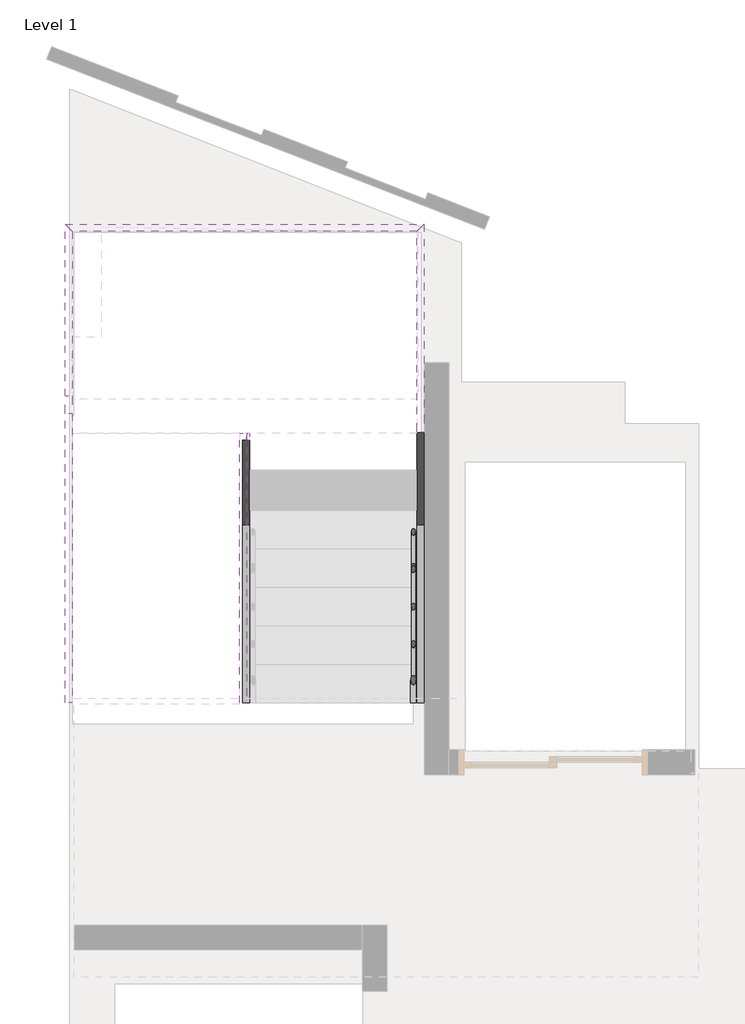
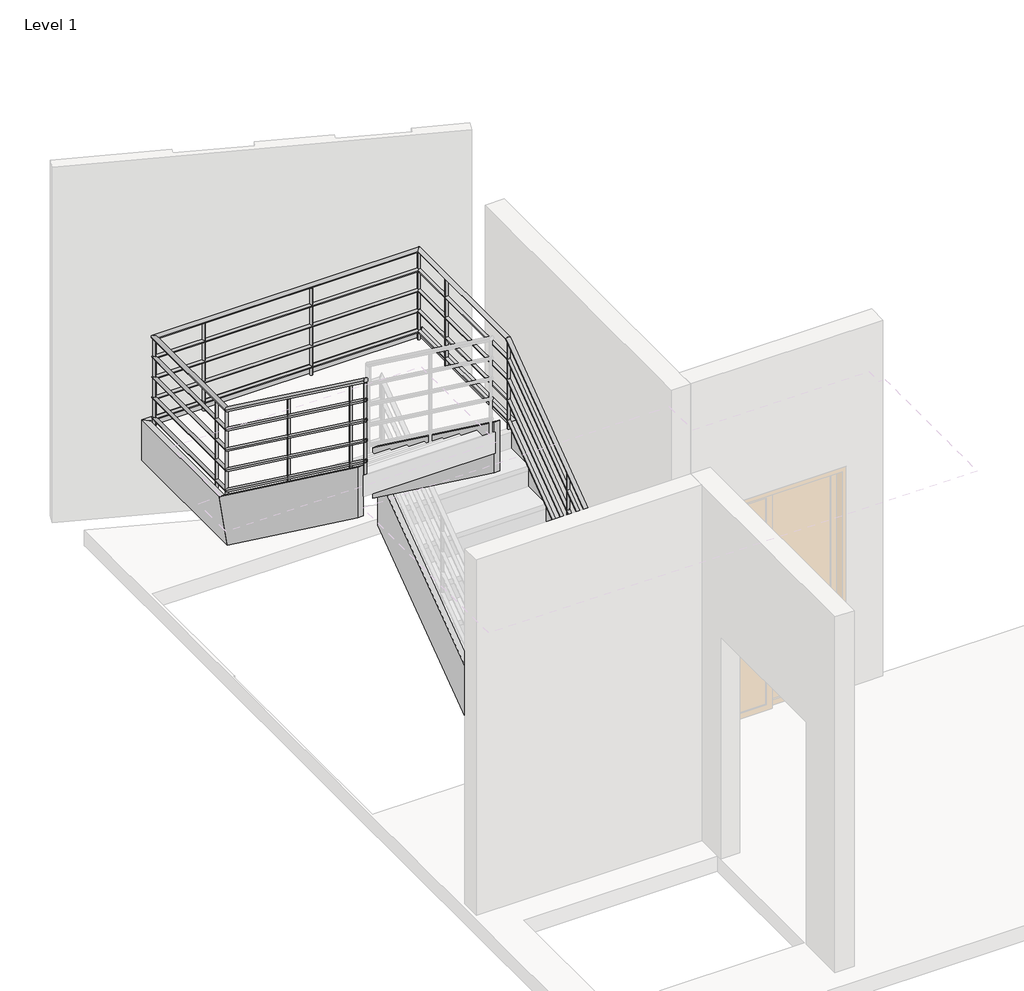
# One storey, part 4 of 4: 8 members, 1 railing.
"""IFC4 building model written with IfcOpenShell, lengths in millimetres."""

import ifcopenshell
import ifcopenshell.guid

model = None  # the IFC model being written
_history = None  # IfcOwnerHistory: only IFC2X3 demands one
_inside = {}  # id of a spatial element -> (the spatial element, [elements in it])
_under = {}  # id of a project, library or spatial element -> (it, [spatial elements below it])
_declared = {}  # id of a project -> (the project, [libraries it declares])
_typed = {}  # id of a type object -> (the type object, [elements of that type])
_made_of = {}  # id of a material, layer set ... -> (it, [elements and type objects made of it])


def new_model(schema):
    """Start an empty IFC model of exactly this schema.

    Asked for "IFC4X3", IfcOpenShell would pick the latest addendum, in which some entities
    have other attributes; the version numbers below select the first issue.
    IFC2X3 requires an IfcOwnerHistory on every rooted entity: one is made here for all.
    """
    global model, _history
    if schema == "IFC4X3":
        model = ifcopenshell.file(schema_version=(4, 3, 0, 0))
    else:
        model = ifcopenshell.file(schema=schema)
    _inside.clear()
    _under.clear()
    _declared.clear()
    _typed.clear()
    _made_of.clear()
    _history = None
    if model.schema == "IFC2X3":
        org = make("IfcOrganization", Name="unknown")
        user = make(
            "IfcPersonAndOrganization",
            ThePerson=make("IfcPerson", FamilyName="unknown"),
            TheOrganization=org,
        )
        app = make(
            "IfcApplication",
            ApplicationDeveloper=org,
            Version="unknown",
            ApplicationFullName="unknown",
            ApplicationIdentifier="unknown",
        )
        _history = make(
            "IfcOwnerHistory",
            OwningUser=user,
            OwningApplication=app,
            ChangeAction="ADDED",
            CreationDate=0,
        )
    return model


def make(cls, **values):
    """One entity of the class cls with the attributes given. An attribute that is None is left unset."""
    return model.create_entity(
        cls, **{name: value for name, value in values.items() if value is not None}
    )


def rooted(cls, **values):
    """An entity with a GlobalId (a new one), such as an element, a storey or a relation."""
    return make(cls, GlobalId=ifcopenshell.guid.new(), OwnerHistory=_history, **values)


def si_unit(unit_type, name, prefix=None):
    """IfcSIUnit, for example si_unit("LENGTHUNIT", "METRE", prefix="MILLI")."""
    return make("IfcSIUnit", UnitType=unit_type, Prefix=prefix, Name=name)


def assignment(units):
    """IfcUnitAssignment: the units of a project."""
    return None if units is None else make("IfcUnitAssignment", Units=units)


def point(xyz):
    """IfcCartesianPoint."""
    return None if xyz is None else make("IfcCartesianPoint", Coordinates=xyz)


def direction(xyz):
    """IfcDirection."""
    return None if xyz is None else make("IfcDirection", DirectionRatios=xyz)


def frame(location, z_axis=None, x_axis=None):
    """IfcAxis2Placement3D, a coordinate frame: its origin and axes. An axis left out is left unset."""
    return make(
        "IfcAxis2Placement3D",
        Location=point(location),
        Axis=direction(z_axis),
        RefDirection=direction(x_axis),
    )


def frame_2d(location, x_axis=None):
    """IfcAxis2Placement2D, a coordinate frame in the plane: its origin and x axis."""
    return make(
        "IfcAxis2Placement2D", Location=point(location), RefDirection=direction(x_axis)
    )


def origin():
    """The frame at (0, 0, 0) with its axes left unset."""
    return frame((0.0, 0.0, 0.0))


def place(relative_to, where):
    """IfcLocalPlacement: puts the frame where relative to a parent placement (None: the world)."""
    return make(
        "IfcLocalPlacement", PlacementRelTo=relative_to, RelativePlacement=where
    )


def context(
    kind, dimensions, precision=None, world=None, true_north=None, identifier=None
):
    """IfcGeometricRepresentationContext, for example the 3D "Model" context."""
    return make(
        "IfcGeometricRepresentationContext",
        ContextIdentifier=identifier,
        ContextType=kind,
        CoordinateSpaceDimension=dimensions,
        Precision=precision,
        WorldCoordinateSystem=world,
        TrueNorth=true_north,
    )


def project(units=None, contexts=None):
    """IfcProject with its units and contexts."""
    return rooted(
        "IfcProject",
        Name="project",
        RepresentationContexts=contexts,
        UnitsInContext=assignment(units),
    )


def spatial(cls, under=None, at=None, **own):
    """A site, building, storey or space (cls), placed at a placement, below another one or the project."""
    s = rooted(cls, ObjectPlacement=at, **own)
    if under is not None:
        _under.setdefault(under.id(), (under, []))[1].append(s)
    return s


def polyline(points):
    """IfcPolyline through the points."""
    return make("IfcPolyline", Points=[point(p) for p in points])


def circle_curve(where, radius):
    """IfcCircle in the frame where."""
    return make("IfcCircle", Position=where, Radius=radius)


def ellipse_curve(where, semi_axis1, semi_axis2):
    """IfcEllipse in the frame where."""
    return make(
        "IfcEllipse", Position=where, SemiAxis1=semi_axis1, SemiAxis2=semi_axis2
    )


def trimmed(basis, trim1, trim2, sense, master):
    """IfcTrimmedCurve: the piece of a basis curve between two trims."""
    return make(
        "IfcTrimmedCurve",
        BasisCurve=basis,
        Trim1=trim1,
        Trim2=trim2,
        SenseAgreement=sense,
        MasterRepresentation=master,
    )


def segment(curve, same_sense, transition):
    """IfcCompositeCurveSegment."""
    return make(
        "IfcCompositeCurveSegment",
        Transition=transition,
        SameSense=same_sense,
        ParentCurve=curve,
    )


def composite_curve(segments, self_intersect=None):
    """IfcCompositeCurve: segments joined end to end."""
    return make("IfcCompositeCurve", Segments=segments, SelfIntersect=self_intersect)


def outline(outer, holes=None, kind="AREA"):
    """IfcArbitraryClosedProfileDef: a profile drawn as a closed curve; with holes, ...WithVoids."""
    if holes is None:
        return make("IfcArbitraryClosedProfileDef", ProfileType=kind, OuterCurve=outer)
    return make(
        "IfcArbitraryProfileDefWithVoids",
        ProfileType=kind,
        OuterCurve=outer,
        InnerCurves=holes,
    )


def extrude(swept, where, along, depth):
    """IfcExtrudedAreaSolid: the profile swept, set in the frame where, extruded along a direction by depth."""
    return make(
        "IfcExtrudedAreaSolid",
        SweptArea=swept,
        Position=where,
        ExtrudedDirection=direction(along),
        Depth=depth,
    )


def faces_of(points, faces, orient=None, outer=None):
    """IfcFace entities. A face is a list of loops; a loop is a list of indices into points, from 0.

    orient and outer hold one flag for each loop. By default every Orientation is true, the
    first loop of a face is its IfcFaceOuterBound and the others are IfcFaceBound.
    """
    made = []
    for i, loops in enumerate(faces):
        bounds = []
        for j, loop in enumerate(loops):
            is_outer = j == 0 if outer is None else outer[i][j]
            bounds.append(
                make(
                    "IfcFaceOuterBound" if is_outer else "IfcFaceBound",
                    Bound=make("IfcPolyLoop", Polygon=[points[k] for k in loop]),
                    Orientation=True if orient is None else orient[i][j],
                )
            )
        made.append(make("IfcFace", Bounds=bounds))
    return made


def faceted_brep(points, faces, orient=None, outer=None, voids=None):
    """IfcFacetedBrep: a solid bounded by flat faces; with voids (closed shells), ...WithVoids."""
    shared = [point(p) for p in points]
    hull = make("IfcClosedShell", CfsFaces=faces_of(shared, faces, orient, outer))
    if voids is None:
        return make("IfcFacetedBrep", Outer=hull)
    return make(
        "IfcFacetedBrepWithVoids",
        Outer=hull,
        Voids=[
            make(cls, CfsFaces=faces_of(shared, fs, o, b)) for cls, fs, o, b in voids
        ],
    )


def shape(context_of_items, identifier, shape_type, items):
    """IfcShapeRepresentation: the items that make up one representation, for example the "Body"."""
    return make(
        "IfcShapeRepresentation",
        ContextOfItems=context_of_items,
        RepresentationIdentifier=identifier,
        RepresentationType=shape_type,
        Items=items,
    )


def made_of(thing, what):
    """Note that an element or type object is made of a material, layer set ...; save() writes the relation."""
    if what is not None:
        _made_of.setdefault(what.id(), (what, []))[1].append(thing)
    return thing


def element(
    cls,
    number,
    at=None,
    inside=None,
    cuts=None,
    type_object=None,
    material=None,
    context=None,
    identifier="Body",
    shape_type=None,
    held_by="IfcProductDefinitionShape",
    body=None,
    shapes=None,
    **own,
):
    """One element of the class cls, such as IfcWall. Its Tag is "e" and its number.

    at: its placement. inside: the storey or other place that contains it. cuts: it is an
    opening in that element (IfcRelVoidsElement). A single representation is given by context,
    identifier, shape_type and body (its items); several are given by shapes. held_by: the class
    of the entity that holds the representations. save() writes the other relations.
    """
    e = rooted(cls, Tag="e%d" % number, ObjectPlacement=at, **own)
    if body is not None:
        shapes = [shape(context, identifier, shape_type, body)]
    if shapes is not None:
        e.Representation = make(held_by, Representations=shapes)
    if inside is not None:
        _inside.setdefault(inside.id(), (inside, []))[1].append(e)
    if cuts is not None:
        rooted(
            "IfcRelVoidsElement", RelatingBuildingElement=cuts, RelatedOpeningElement=e
        )
    if type_object is not None:
        _typed.setdefault(type_object.id(), (type_object, []))[1].append(e)
    return made_of(e, material)


def aggregate(whole, parts):
    """IfcRelAggregates: a whole, such as a stair, and the parts it consists of."""
    return rooted("IfcRelAggregates", RelatingObject=whole, RelatedObjects=parts)


def save(model, path):
    """Write the relations noted so far, then the file.

    IfcRelAggregates (storeys below a building ...), IfcRelContainedInSpatialStructure (elements
    in a storey), IfcRelDefinesByType, IfcRelAssociatesMaterial and IfcRelDeclares: one each for
    every whole, place, type object, material and project.
    """
    for whole, parts in _under.values():
        aggregate(whole, parts)
    for where, things in _inside.values():
        rooted(
            "IfcRelContainedInSpatialStructure",
            RelatedElements=things,
            RelatingStructure=where,
        )
    for kind, things in _typed.values():
        rooted("IfcRelDefinesByType", RelatedObjects=things, RelatingType=kind)
    for what, things in _made_of.values():
        rooted("IfcRelAssociatesMaterial", RelatedObjects=things, RelatingMaterial=what)
    for by, libraries in _declared.values():
        rooted("IfcRelDeclares", RelatingContext=by, RelatedDefinitions=libraries)
    model.write(path)


def plane_surface(at):
    """IfcPlane: the flat surface through the origin of the frame at, square to its z axis."""
    return make("IfcPlane", Position=at)


def cylinder_surface(at, radius):
    """IfcCylindricalSurface: all points at the distance radius from the z axis of the frame at."""
    return make("IfcCylindricalSurface", Position=at, Radius=radius)


def advanced_brep(points, edges, surfaces, faces):
    """IfcAdvancedBrep: a solid bounded by faces that lie on surfaces and meet in shared edges.

    An edge is (start, end): straight between two places in points (the first is 0);
    or (start, end, curve); or (start, end, curve, False) where it runs against its curve.
    A face is (place in surfaces, loops), or (place, loops, False) where it looks against
    its surface's normal. A loop lists edges by number (the first is 1), with a minus sign
    where the edge is run from its end to its start. The first loop is the outer one.
    """
    corners = [point(p) for p in points]
    vertices = [make("IfcVertexPoint", VertexGeometry=c) for c in corners]
    made = []
    for start, end, *more in edges:
        made.append(
            make(
                "IfcEdgeCurve",
                EdgeStart=vertices[start],
                EdgeEnd=vertices[end],
                EdgeGeometry=more[0] if more else make("IfcPolyline", Points=[corners[start], corners[end]]),
                SameSense=more[1] if len(more) > 1 else True,
            )
        )
    hull = []
    for where, loops, *sense in faces:
        bounds = []
        for j, loop in enumerate(loops):
            ring = [make("IfcOrientedEdge", EdgeElement=made[abs(k) - 1], Orientation=k > 0) for k in loop]
            bounds.append(
                make(
                    "IfcFaceOuterBound" if j == 0 else "IfcFaceBound",
                    Bound=make("IfcEdgeLoop", EdgeList=ring),
                    Orientation=True,
                )
            )
        hull.append(make("IfcAdvancedFace", Bounds=bounds, FaceSurface=surfaces[where], SameSense=sense[0] if sense else True))
    return make("IfcAdvancedBrep", Outer=make("IfcClosedShell", CfsFaces=hull))


model = new_model("IFC4")

# Units and contexts
model_context = context("Model", 3, world=origin())
ifc_project = project(units=[si_unit("LENGTHUNIT", "METRE", prefix="MILLI")], contexts=[model_context])

# Site, building, storey
site = spatial("IfcSite", under=ifc_project)
building = spatial("IfcBuilding", under=site)
storey = spatial("IfcBuildingStorey", under=building, Name="Level 1", Elevation=4500.0)

# Members
placement = place(None, origin())
element("IfcMember", 1, ObjectType="Stringer - 50mm Width", at=placement, inside=storey, context=model_context, shape_type="SweptSolid", body=[
    extrude(outline(polyline([(10481.5722364, 4500.0), (10481.5722364, 4751.1168801), (12391.5722364, 6155.5286448), (12391.5722364, 5659.0357543), (10815.2836106, 4500.0), (10481.5722364, 4500.0)])), frame((1177.2607589, 0.0, 0.0), z_axis=(1.0, 0.0, 0.0), x_axis=(0.0, 1.0, 0.0)), (0.0, 0.0, 1.0), 50.0),
])
element("IfcMember", 2, ObjectType="Stringer - 50mm Width", at=placement, inside=storey, context=model_context, shape_type="SweptSolid", body=[
    extrude(outline(polyline([(10481.5722364, 4500.0), (10481.5722364, 4751.1168801), (12448.0532795, 6197.0588235), (12579.2836106, 5797.0588235), (10815.2836106, 4500.0), (10481.5722364, 4500.0)])), frame((2447.2607589, 0.0, 0.0), z_axis=(1.0, 0.0, 0.0), x_axis=(0.0, 1.0, 0.0)), (0.0, 0.0, 1.0), 50.0),
])
element("IfcMember", 3, ObjectType="Stringer - 50mm Width", at=placement, inside=storey, context=model_context, shape_type="SweptSolid", body=[
    extrude(outline(polyline([(12441.5722364, 6398.1757036), (12441.5722364, 5901.6828131), (10481.5722364, 7342.8592837), (10481.5722364, 7839.3521742), (12441.5722364, 6398.1757036)])), frame((1157.2607589, 0.0, 0.0), z_axis=(1.0, 0.0, 0.0), x_axis=(0.0, 1.0, 0.0)), (0.0, 0.0, 1.0), 50.0),
])
element("IfcMember", 4, ObjectType="Stringer - 50mm Width", at=placement, inside=storey, context=model_context, shape_type="SweptSolid", body=[
    extrude(outline(polyline([(12715.0911933, 6197.0588235), (12583.8608623, 5797.0588235), (10481.5722364, 7342.8592837), (10481.5722364, 7839.3521742), (12715.0911933, 6197.0588235)])), frame((-112.7392411, 0.0, 0.0), z_axis=(1.0, 0.0, 0.0), x_axis=(0.0, 1.0, 0.0)), (0.0, 0.0, 1.0), 50.0),
])
element("IfcMember", 5, ObjectType="Stringer - 50mm Width", at=placement, inside=storey, context=model_context, shape_type="SweptSolid", body=[
    extrude(outline(polyline([(1207.2607589, 12391.5722364), (1207.2607589, 12441.5722364), (1227.2607589, 12441.5722364), (1227.2607589, 12391.5722364), (1207.2607589, 12391.5722364)])), frame((0.0, 0.0, 5797.0588235), z_axis=(0.0, 0.0, 1.0), x_axis=(1.0, 0.0, 0.0)), (0.0, 0.0, 1.0), 400.0),
])
element("IfcMember", 6, ObjectType="Stringer - 50mm Width", at=placement, inside=storey, context=model_context, shape_type="Brep", body=[
    faceted_brep([(2447.2607589, 12448.0532795, 6197.0588235), (2497.2607589, 12448.0532795, 6197.0588235), (2497.2607589, 13961.9570443, 6197.0588235), (2447.2607589, 13911.9570443, 6197.0588235), (2447.2607589, 12579.2836106, 5797.0588235), (2447.2607589, 13911.9570443, 5797.0588235), (2497.2607589, 12579.2836106, 5797.0588235), (2497.2607589, 13961.9570443, 5797.0588235)], [[[0, 1, 2, 3]], [[4, 0, 3, 5]], [[6, 4, 5, 7]], [[1, 6, 7, 2]], [[1, 0, 4, 6]], [[2, 7, 5, 3]]]),
])
element("IfcMember", 7, ObjectType="Stringer - 50mm Width", at=placement, inside=storey, context=model_context, shape_type="SweptSolid", body=[
    extrude(outline(polyline([(2497.2607589, 13961.9570443), (2447.2607589, 13911.9570443), (-62.7392411, 13911.9570443), (-112.7392411, 13961.9570443), (2497.2607589, 13961.9570443)])), frame((0.0, 0.0, 5797.0588235), z_axis=(0.0, 0.0, 1.0), x_axis=(1.0, 0.0, 0.0)), (0.0, 0.0, 1.0), 400.0),
])
element("IfcMember", 8, ObjectType="Stringer - 50mm Width", at=placement, inside=storey, context=model_context, shape_type="Brep", body=[
    faceted_brep([(-62.7392411, 13911.9570443, 6197.0588235), (-112.7392411, 13961.9570443, 6197.0588235), (-112.7392411, 12715.0911933, 6197.0588235), (-62.7392411, 12715.0911933, 6197.0588235), (-62.7392411, 13911.9570443, 5797.0588235), (-62.7392411, 12583.8608623, 5797.0588235), (-112.7392411, 13961.9570443, 5797.0588235), (-112.7392411, 12583.8608623, 5797.0588235)], [[[0, 1, 2, 3]], [[4, 0, 3, 5]], [[6, 4, 5, 7]], [[1, 6, 7, 2]], [[1, 0, 4, 6]], [[2, 7, 5, 3]]]),
])

# Railing
element("IfcRailing", 9, ObjectType="900mm Pipe", at=placement, inside=storey, context=model_context, shape_type="SolidModel", body=[
    advanced_brep(
    [(2441.8607589, 10481.5722364, 5581.0577084), (2401.8607589, 10481.5722364, 5581.0577084), (2441.8607589, 12448.133753, 7027.0588235), (2401.8607589, 12448.133753, 7027.0588235), (2441.8607589, 13906.5570443, 7027.0588235), (2401.8607589, 13866.5570443, 7027.0588235), (-57.3392411, 13906.5570443, 7027.0588235), (-17.3392411, 13866.5570443, 7027.0588235), (-57.3392411, 12715.0107199, 7027.0588235), (-17.3392411, 12715.0107199, 7027.0588235), (-57.3392411, 10481.5722364, 8669.2930025), (-17.3392411, 10481.5722364, 8669.2930025)],
    [
        (0, 1, ellipse_curve(frame((2421.8607589, 10481.5722364, 5581.0577084), z_axis=(0.0, -1.0, 0.0), x_axis=(0.0, 0.0, -1.0)), 24.8246445, 20.0)),
        (1, 0, ellipse_curve(frame((2421.8607589, 10481.5722364, 5581.0577084), z_axis=(0.0, -1.0, 0.0), x_axis=(0.0, 0.0, -1.0)), 24.8246445, 20.0)),
        (0, 2),
        (2, 3, ellipse_curve(frame((2421.8607589, 12448.133753, 7027.0588235), z_axis=(0.0, -0.95017130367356, -0.3117282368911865), x_axis=(0.0, 0.311728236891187, -0.9501713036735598)), 21.0488361, 20.0)),
        (3, 1),
        (3, 2, ellipse_curve(frame((2421.8607589, 12448.133753, 7027.0588235), z_axis=(0.0, -0.95017130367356, -0.3117282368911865), x_axis=(0.0, 0.311728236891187, -0.9501713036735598)), 21.0488361, 20.0)),
        (2, 4),
        (4, 5, ellipse_curve(frame((2421.8607589, 13886.5570443, 7027.0588235), z_axis=(0.7071067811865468, -0.7071067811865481, 0.0), x_axis=(-0.707106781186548, -0.707106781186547, 0.0)), 28.2842712, 20.0)),
        (5, 3),
        (5, 4, ellipse_curve(frame((2421.8607589, 13886.5570443, 7027.0588235), z_axis=(0.7071067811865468, -0.7071067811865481, 0.0), x_axis=(-0.707106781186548, -0.707106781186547, 0.0)), 28.2842712, 20.0)),
        (4, 6),
        (6, 7, ellipse_curve(frame((-37.3392411, 13886.5570443, 7027.0588235), z_axis=(0.7071067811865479, 0.707106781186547, 0.0), x_axis=(0.7071067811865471, -0.7071067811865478, 0.0)), 28.2842712, 20.0)),
        (7, 5),
        (7, 6, ellipse_curve(frame((-37.3392411, 13886.5570443, 7027.0588235), z_axis=(0.7071067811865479, 0.707106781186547, 0.0), x_axis=(0.7071067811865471, -0.7071067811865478, 0.0)), 28.2842712, 20.0)),
        (6, 8),
        (8, 9, ellipse_curve(frame((-37.3392411, 12715.0107199, 7027.0588235), z_axis=(0.0, 0.95017130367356, -0.31172823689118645), x_axis=(0.0, 0.31172823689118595, 0.95017130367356)), 21.0488361, 20.0)),
        (9, 7),
        (9, 8, ellipse_curve(frame((-37.3392411, 12715.0107199, 7027.0588235), z_axis=(0.0, 0.95017130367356, -0.31172823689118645), x_axis=(0.0, 0.31172823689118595, 0.95017130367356)), 21.0488361, 20.0)),
        (10, 11, ellipse_curve(frame((-37.3392411, 10481.5722364, 8669.2930025), z_axis=(0.0, -1.0, 0.0), x_axis=(0.0, 0.0, -1.0)), 24.8246445, 20.0)),
        (11, 10, ellipse_curve(frame((-37.3392411, 10481.5722364, 8669.2930025), z_axis=(0.0, -1.0, 0.0), x_axis=(0.0, 0.0, -1.0)), 24.8246445, 20.0)),
        (8, 10),
        (11, 9),
    ],
    [
        plane_surface(frame((2421.8607589, 10481.5722364, 5605.8823529), z_axis=(0.0, -1.0, 0.0), x_axis=(0.0, 0.0, 1.0))),
        cylinder_surface(frame((2421.8607589, 10493.4200454, 5589.7693327), z_axis=(0.0, -0.8056510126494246, -0.592390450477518), x_axis=(-1.0, 0.0, 0.0)), 20.0),
        cylinder_surface(frame((2421.8607589, 12441.5722364, 7027.0588235), z_axis=(0.0, -1.0, 0.0), x_axis=(-1.0, 0.0, 0.0)), 20.0),
        cylinder_surface(frame((2421.8607589, 13886.5570443, 7027.0588235), z_axis=(1.0, 0.0, 0.0), x_axis=(0.0, -1.0, 0.0)), 20.0),
        cylinder_surface(frame((-37.3392411, 13886.5570443, 7027.0588235), z_axis=(0.0, 1.0, 0.0), x_axis=(1.0, 0.0, 0.0)), 20.0),
        plane_surface(frame((-37.3392411, 10481.5722364, 8694.1176471), z_axis=(0.0, -1.0, 0.0), x_axis=(0.0, 0.0, -1.0))),
        cylinder_surface(frame((-37.3392411, 12709.7244274, 7030.9458033), z_axis=(0.0, 0.8056510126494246, -0.5923904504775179), x_axis=(1.0, 0.0, 0.0)), 20.0),
    ],
    [
        (0, [[1, 2]]),
        (1, [[-1, 3, 4, 5]]),
        (1, [[-2, -5, 6, -3]]),
        (2, [[-4, 7, 8, 9]]),
        (2, [[-6, -9, 10, -7]]),
        (3, [[-8, 11, 12, 13]]),
        (3, [[-10, -13, 14, -11]]),
        (4, [[-12, 15, 16, 17]]),
        (4, [[-14, -17, 18, -15]]),
        (5, [[19, 20]]),
        (6, [[-16, 21, -20, 22]]),
        (6, [[-18, -22, -19, -21]]),
    ],
),
    advanced_brep(
    [(2406.8607589, 10481.5722364, 5387.2638695), (2436.8607589, 10481.5722364, 5387.2638695), (2406.8607589, 12446.4933738, 6832.0588235), (2436.8607589, 12446.4933738, 6832.0588235), (2406.8607589, 13871.5570443, 6832.0588235), (2436.8607589, 13901.5570443, 6832.0588235), (-22.3392411, 13871.5570443, 6832.0588235), (-52.3392411, 13901.5570443, 6832.0588235), (-22.3392411, 12716.651099, 6832.0588235), (-52.3392411, 12716.651099, 6832.0588235), (-22.3392411, 10481.5722364, 8475.4991637), (-52.3392411, 10481.5722364, 8475.4991637)],
    [
        (0, 1, ellipse_curve(frame((2421.8607589, 10481.5722364, 5387.2638695), z_axis=(0.0, -1.0, 0.0), x_axis=(0.0, 0.0, -1.0)), 18.6184834, 15.0)),
        (1, 0, ellipse_curve(frame((2421.8607589, 10481.5722364, 5387.2638695), z_axis=(0.0, -1.0, 0.0), x_axis=(0.0, 0.0, -1.0)), 18.6184834, 15.0)),
        (0, 2),
        (2, 3, ellipse_curve(frame((2421.8607589, 12446.4933738, 6832.0588235), z_axis=(0.0, -0.95017130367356, -0.3117282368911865), x_axis=(0.0, 0.311728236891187, -0.9501713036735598)), 15.786627, 15.0)),
        (3, 1),
        (3, 2, ellipse_curve(frame((2421.8607589, 12446.4933738, 6832.0588235), z_axis=(0.0, -0.95017130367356, -0.3117282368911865), x_axis=(0.0, 0.311728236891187, -0.9501713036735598)), 15.786627, 15.0)),
        (2, 4),
        (4, 5, ellipse_curve(frame((2421.8607589, 13886.5570443, 6832.0588235), z_axis=(0.7071067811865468, -0.7071067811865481, 0.0), x_axis=(-0.707106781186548, -0.707106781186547, 0.0)), 21.2132034, 15.0)),
        (5, 3),
        (5, 4, ellipse_curve(frame((2421.8607589, 13886.5570443, 6832.0588235), z_axis=(0.7071067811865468, -0.7071067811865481, 0.0), x_axis=(-0.707106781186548, -0.707106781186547, 0.0)), 21.2132034, 15.0)),
        (4, 6),
        (6, 7, ellipse_curve(frame((-37.3392411, 13886.5570443, 6832.0588235), z_axis=(0.7071067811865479, 0.707106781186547, 0.0), x_axis=(0.7071067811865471, -0.7071067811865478, 0.0)), 21.2132034, 15.0)),
        (7, 5),
        (7, 6, ellipse_curve(frame((-37.3392411, 13886.5570443, 6832.0588235), z_axis=(0.7071067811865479, 0.707106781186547, 0.0), x_axis=(0.7071067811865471, -0.7071067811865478, 0.0)), 21.2132034, 15.0)),
        (6, 8),
        (8, 9, ellipse_curve(frame((-37.3392411, 12716.651099, 6832.0588235), z_axis=(0.0, 0.95017130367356, -0.31172823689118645), x_axis=(0.0, 0.31172823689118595, 0.95017130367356)), 15.786627, 15.0)),
        (9, 7),
        (9, 8, ellipse_curve(frame((-37.3392411, 12716.651099, 6832.0588235), z_axis=(0.0, 0.95017130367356, -0.31172823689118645), x_axis=(0.0, 0.31172823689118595, 0.95017130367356)), 15.786627, 15.0)),
        (10, 11, ellipse_curve(frame((-37.3392411, 10481.5722364, 8475.4991637), z_axis=(0.0, -1.0, 0.0), x_axis=(0.0, 0.0, -1.0)), 18.6184834, 15.0)),
        (11, 10, ellipse_curve(frame((-37.3392411, 10481.5722364, 8475.4991637), z_axis=(0.0, -1.0, 0.0), x_axis=(0.0, 0.0, -1.0)), 18.6184834, 15.0)),
        (8, 10),
        (11, 9),
    ],
    [
        plane_surface(frame((2421.8607589, 10481.5722364, 5405.8823529), z_axis=(0.0, -1.0, 0.0), x_axis=(0.0, 0.0, 1.0))),
        cylinder_surface(frame((2421.8607589, 10490.4580932, 5393.7975878), z_axis=(0.0, -0.8056510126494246, -0.592390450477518), x_axis=(1.0, 0.0, 0.0)), 15.0),
        cylinder_surface(frame((2421.8607589, 12441.5722364, 6832.0588235), z_axis=(0.0, -1.0, 0.0), x_axis=(1.0, 0.0, 0.0)), 15.0),
        cylinder_surface(frame((2421.8607589, 13886.5570443, 6832.0588235), z_axis=(1.0, 0.0, 0.0), x_axis=(0.0, 1.0, 0.0)), 15.0),
        cylinder_surface(frame((-37.3392411, 13886.5570443, 6832.0588235), z_axis=(0.0, 1.0, 0.0), x_axis=(-1.0, 0.0, 0.0)), 15.0),
        plane_surface(frame((-37.3392411, 10481.5722364, 8494.1176471), z_axis=(0.0, -1.0, 0.0), x_axis=(0.0, 0.0, -1.0))),
        cylinder_surface(frame((-37.3392411, 12712.6863797, 6834.9740583), z_axis=(0.0, 0.8056510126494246, -0.5923904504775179), x_axis=(-1.0, 0.0, 0.0)), 15.0),
    ],
    [
        (0, [[1, 2]]),
        (1, [[-1, 3, 4, 5]]),
        (1, [[-2, -5, 6, -3]]),
        (2, [[-4, 7, 8, 9]]),
        (2, [[-6, -9, 10, -7]]),
        (3, [[-8, 11, 12, 13]]),
        (3, [[-10, -13, 14, -11]]),
        (4, [[-12, 15, 16, 17]]),
        (4, [[-14, -17, 18, -15]]),
        (5, [[19, 20]]),
        (6, [[-16, 21, -20, 22]]),
        (6, [[-18, -22, -19, -21]]),
    ],
),
    advanced_brep(
    [(2406.8607589, 10481.5722364, 5187.2638695), (2436.8607589, 10481.5722364, 5187.2638695), (2406.8607589, 12446.4933738, 6632.0588235), (2436.8607589, 12446.4933738, 6632.0588235), (2406.8607589, 13871.5570443, 6632.0588235), (2436.8607589, 13901.5570443, 6632.0588235), (-22.3392411, 13871.5570443, 6632.0588235), (-52.3392411, 13901.5570443, 6632.0588235), (-22.3392411, 12716.651099, 6632.0588235), (-52.3392411, 12716.651099, 6632.0588235), (-22.3392411, 10481.5722364, 8275.4991637), (-52.3392411, 10481.5722364, 8275.4991637)],
    [
        (0, 1, ellipse_curve(frame((2421.8607589, 10481.5722364, 5187.2638695), z_axis=(0.0, -1.0, 0.0), x_axis=(0.0, 0.0, -1.0)), 18.6184834, 15.0)),
        (1, 0, ellipse_curve(frame((2421.8607589, 10481.5722364, 5187.2638695), z_axis=(0.0, -1.0, 0.0), x_axis=(0.0, 0.0, -1.0)), 18.6184834, 15.0)),
        (0, 2),
        (2, 3, ellipse_curve(frame((2421.8607589, 12446.4933738, 6632.0588235), z_axis=(0.0, -0.95017130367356, -0.3117282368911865), x_axis=(0.0, 0.311728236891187, -0.9501713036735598)), 15.786627, 15.0)),
        (3, 1),
        (3, 2, ellipse_curve(frame((2421.8607589, 12446.4933738, 6632.0588235), z_axis=(0.0, -0.95017130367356, -0.3117282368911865), x_axis=(0.0, 0.311728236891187, -0.9501713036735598)), 15.786627, 15.0)),
        (2, 4),
        (4, 5, ellipse_curve(frame((2421.8607589, 13886.5570443, 6632.0588235), z_axis=(0.7071067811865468, -0.7071067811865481, 0.0), x_axis=(-0.707106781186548, -0.707106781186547, 0.0)), 21.2132034, 15.0)),
        (5, 3),
        (5, 4, ellipse_curve(frame((2421.8607589, 13886.5570443, 6632.0588235), z_axis=(0.7071067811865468, -0.7071067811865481, 0.0), x_axis=(-0.707106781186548, -0.707106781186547, 0.0)), 21.2132034, 15.0)),
        (4, 6),
        (6, 7, ellipse_curve(frame((-37.3392411, 13886.5570443, 6632.0588235), z_axis=(0.7071067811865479, 0.707106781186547, 0.0), x_axis=(0.7071067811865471, -0.7071067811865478, 0.0)), 21.2132034, 15.0)),
        (7, 5),
        (7, 6, ellipse_curve(frame((-37.3392411, 13886.5570443, 6632.0588235), z_axis=(0.7071067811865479, 0.707106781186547, 0.0), x_axis=(0.7071067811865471, -0.7071067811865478, 0.0)), 21.2132034, 15.0)),
        (6, 8),
        (8, 9, ellipse_curve(frame((-37.3392411, 12716.651099, 6632.0588235), z_axis=(0.0, 0.95017130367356, -0.31172823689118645), x_axis=(0.0, 0.31172823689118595, 0.95017130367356)), 15.786627, 15.0)),
        (9, 7),
        (9, 8, ellipse_curve(frame((-37.3392411, 12716.651099, 6632.0588235), z_axis=(0.0, 0.95017130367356, -0.31172823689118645), x_axis=(0.0, 0.31172823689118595, 0.95017130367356)), 15.786627, 15.0)),
        (10, 11, ellipse_curve(frame((-37.3392411, 10481.5722364, 8275.4991637), z_axis=(0.0, -1.0, 0.0), x_axis=(0.0, 0.0, -1.0)), 18.6184834, 15.0)),
        (11, 10, ellipse_curve(frame((-37.3392411, 10481.5722364, 8275.4991637), z_axis=(0.0, -1.0, 0.0), x_axis=(0.0, 0.0, -1.0)), 18.6184834, 15.0)),
        (8, 10),
        (11, 9),
    ],
    [
        plane_surface(frame((2421.8607589, 10481.5722364, 5205.8823529), z_axis=(0.0, -1.0, 0.0), x_axis=(0.0, 0.0, 1.0))),
        cylinder_surface(frame((2421.8607589, 10490.4580932, 5193.7975878), z_axis=(0.0, -0.8056510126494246, -0.592390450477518), x_axis=(1.0, 0.0, 0.0)), 15.0),
        cylinder_surface(frame((2421.8607589, 12441.5722364, 6632.0588235), z_axis=(0.0, -1.0, 0.0), x_axis=(1.0, 0.0, 0.0)), 15.0),
        cylinder_surface(frame((2421.8607589, 13886.5570443, 6632.0588235), z_axis=(1.0, 0.0, 0.0), x_axis=(0.0, 1.0, 0.0)), 15.0),
        cylinder_surface(frame((-37.3392411, 13886.5570443, 6632.0588235), z_axis=(0.0, 1.0, 0.0), x_axis=(-1.0, 0.0, 0.0)), 15.0),
        plane_surface(frame((-37.3392411, 10481.5722364, 8294.1176471), z_axis=(0.0, -1.0, 0.0), x_axis=(0.0, 0.0, -1.0))),
        cylinder_surface(frame((-37.3392411, 12712.6863797, 6634.9740583), z_axis=(0.0, 0.8056510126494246, -0.5923904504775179), x_axis=(-1.0, 0.0, 0.0)), 15.0),
    ],
    [
        (0, [[1, 2]]),
        (1, [[-1, 3, 4, 5]]),
        (1, [[-2, -5, 6, -3]]),
        (2, [[-4, 7, 8, 9]]),
        (2, [[-6, -9, 10, -7]]),
        (3, [[-8, 11, 12, 13]]),
        (3, [[-10, -13, 14, -11]]),
        (4, [[-12, 15, 16, 17]]),
        (4, [[-14, -17, 18, -15]]),
        (5, [[19, 20]]),
        (6, [[-16, 21, -20, 22]]),
        (6, [[-18, -22, -19, -21]]),
    ],
),
    advanced_brep(
    [(2406.8607589, 10481.5722364, 4987.2638695), (2436.8607589, 10481.5722364, 4987.2638695), (2406.8607589, 12446.4933738, 6432.0588235), (2436.8607589, 12446.4933738, 6432.0588235), (2406.8607589, 13871.5570443, 6432.0588235), (2436.8607589, 13901.5570443, 6432.0588235), (-22.3392411, 13871.5570443, 6432.0588235), (-52.3392411, 13901.5570443, 6432.0588235), (-22.3392411, 12716.651099, 6432.0588235), (-52.3392411, 12716.651099, 6432.0588235), (-22.3392411, 10481.5722364, 8075.4991637), (-52.3392411, 10481.5722364, 8075.4991637)],
    [
        (0, 1, ellipse_curve(frame((2421.8607589, 10481.5722364, 4987.2638695), z_axis=(0.0, -1.0, 0.0), x_axis=(0.0, 0.0, -1.0)), 18.6184834, 15.0)),
        (1, 0, ellipse_curve(frame((2421.8607589, 10481.5722364, 4987.2638695), z_axis=(0.0, -1.0, 0.0), x_axis=(0.0, 0.0, -1.0)), 18.6184834, 15.0)),
        (0, 2),
        (2, 3, ellipse_curve(frame((2421.8607589, 12446.4933738, 6432.0588235), z_axis=(0.0, -0.95017130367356, -0.3117282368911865), x_axis=(0.0, 0.311728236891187, -0.9501713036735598)), 15.786627, 15.0)),
        (3, 1),
        (3, 2, ellipse_curve(frame((2421.8607589, 12446.4933738, 6432.0588235), z_axis=(0.0, -0.95017130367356, -0.3117282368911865), x_axis=(0.0, 0.311728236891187, -0.9501713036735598)), 15.786627, 15.0)),
        (2, 4),
        (4, 5, ellipse_curve(frame((2421.8607589, 13886.5570443, 6432.0588235), z_axis=(0.7071067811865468, -0.7071067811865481, 0.0), x_axis=(-0.707106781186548, -0.707106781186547, 0.0)), 21.2132034, 15.0)),
        (5, 3),
        (5, 4, ellipse_curve(frame((2421.8607589, 13886.5570443, 6432.0588235), z_axis=(0.7071067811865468, -0.7071067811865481, 0.0), x_axis=(-0.707106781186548, -0.707106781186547, 0.0)), 21.2132034, 15.0)),
        (4, 6),
        (6, 7, ellipse_curve(frame((-37.3392411, 13886.5570443, 6432.0588235), z_axis=(0.7071067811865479, 0.707106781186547, 0.0), x_axis=(0.7071067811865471, -0.7071067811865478, 0.0)), 21.2132034, 15.0)),
        (7, 5),
        (7, 6, ellipse_curve(frame((-37.3392411, 13886.5570443, 6432.0588235), z_axis=(0.7071067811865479, 0.707106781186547, 0.0), x_axis=(0.7071067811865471, -0.7071067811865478, 0.0)), 21.2132034, 15.0)),
        (6, 8),
        (8, 9, ellipse_curve(frame((-37.3392411, 12716.651099, 6432.0588235), z_axis=(0.0, 0.95017130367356, -0.31172823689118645), x_axis=(0.0, 0.31172823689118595, 0.95017130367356)), 15.786627, 15.0)),
        (9, 7),
        (9, 8, ellipse_curve(frame((-37.3392411, 12716.651099, 6432.0588235), z_axis=(0.0, 0.95017130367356, -0.31172823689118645), x_axis=(0.0, 0.31172823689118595, 0.95017130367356)), 15.786627, 15.0)),
        (10, 11, ellipse_curve(frame((-37.3392411, 10481.5722364, 8075.4991637), z_axis=(0.0, -1.0, 0.0), x_axis=(0.0, 0.0, -1.0)), 18.6184834, 15.0)),
        (11, 10, ellipse_curve(frame((-37.3392411, 10481.5722364, 8075.4991637), z_axis=(0.0, -1.0, 0.0), x_axis=(0.0, 0.0, -1.0)), 18.6184834, 15.0)),
        (8, 10),
        (11, 9),
    ],
    [
        plane_surface(frame((2421.8607589, 10481.5722364, 5005.8823529), z_axis=(0.0, -1.0, 0.0), x_axis=(0.0, 0.0, 1.0))),
        cylinder_surface(frame((2421.8607589, 10490.4580932, 4993.7975878), z_axis=(0.0, -0.8056510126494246, -0.592390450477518), x_axis=(1.0, 0.0, 0.0)), 15.0),
        cylinder_surface(frame((2421.8607589, 12441.5722364, 6432.0588235), z_axis=(0.0, -1.0, 0.0), x_axis=(1.0, 0.0, 0.0)), 15.0),
        cylinder_surface(frame((2421.8607589, 13886.5570443, 6432.0588235), z_axis=(1.0, 0.0, 0.0), x_axis=(0.0, 1.0, 0.0)), 15.0),
        cylinder_surface(frame((-37.3392411, 13886.5570443, 6432.0588235), z_axis=(0.0, 1.0, 0.0), x_axis=(-1.0, 0.0, 0.0)), 15.0),
        plane_surface(frame((-37.3392411, 10481.5722364, 8094.1176471), z_axis=(0.0, -1.0, 0.0), x_axis=(0.0, 0.0, -1.0))),
        cylinder_surface(frame((-37.3392411, 12712.6863797, 6434.9740583), z_axis=(0.0, 0.8056510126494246, -0.5923904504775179), x_axis=(-1.0, 0.0, 0.0)), 15.0),
    ],
    [
        (0, [[1, 2]]),
        (1, [[-1, 3, 4, 5]]),
        (1, [[-2, -5, 6, -3]]),
        (2, [[-4, 7, 8, 9]]),
        (2, [[-6, -9, 10, -7]]),
        (3, [[-8, 11, 12, 13]]),
        (3, [[-10, -13, 14, -11]]),
        (4, [[-12, 15, 16, 17]]),
        (4, [[-14, -17, 18, -15]]),
        (5, [[19, 20]]),
        (6, [[-16, 21, -20, 22]]),
        (6, [[-18, -22, -19, -21]]),
    ],
),
    advanced_brep(
    [(2406.8607589, 10481.5722364, 4787.2638695), (2436.8607589, 10481.5722364, 4787.2638695), (2406.8607589, 12446.4933738, 6232.0588235), (2436.8607589, 12446.4933738, 6232.0588235), (2406.8607589, 13871.5570443, 6232.0588235), (2436.8607589, 13901.5570443, 6232.0588235), (-22.3392411, 13871.5570443, 6232.0588235), (-52.3392411, 13901.5570443, 6232.0588235), (-22.3392411, 12716.651099, 6232.0588235), (-52.3392411, 12716.651099, 6232.0588235), (-22.3392411, 10481.5722364, 7875.4991637), (-52.3392411, 10481.5722364, 7875.4991637)],
    [
        (0, 1, ellipse_curve(frame((2421.8607589, 10481.5722364, 4787.2638695), z_axis=(0.0, -1.0, 0.0), x_axis=(0.0, 0.0, -1.0)), 18.6184834, 15.0)),
        (1, 0, ellipse_curve(frame((2421.8607589, 10481.5722364, 4787.2638695), z_axis=(0.0, -1.0, 0.0), x_axis=(0.0, 0.0, -1.0)), 18.6184834, 15.0)),
        (0, 2),
        (2, 3, ellipse_curve(frame((2421.8607589, 12446.4933738, 6232.0588235), z_axis=(0.0, -0.95017130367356, -0.3117282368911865), x_axis=(0.0, 0.311728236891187, -0.9501713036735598)), 15.786627, 15.0)),
        (3, 1),
        (3, 2, ellipse_curve(frame((2421.8607589, 12446.4933738, 6232.0588235), z_axis=(0.0, -0.95017130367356, -0.3117282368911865), x_axis=(0.0, 0.311728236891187, -0.9501713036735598)), 15.786627, 15.0)),
        (2, 4),
        (4, 5, ellipse_curve(frame((2421.8607589, 13886.5570443, 6232.0588235), z_axis=(0.7071067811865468, -0.7071067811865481, 0.0), x_axis=(-0.707106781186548, -0.707106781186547, 0.0)), 21.2132034, 15.0)),
        (5, 3),
        (5, 4, ellipse_curve(frame((2421.8607589, 13886.5570443, 6232.0588235), z_axis=(0.7071067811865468, -0.7071067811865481, 0.0), x_axis=(-0.707106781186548, -0.707106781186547, 0.0)), 21.2132034, 15.0)),
        (4, 6),
        (6, 7, ellipse_curve(frame((-37.3392411, 13886.5570443, 6232.0588235), z_axis=(0.7071067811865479, 0.707106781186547, 0.0), x_axis=(0.7071067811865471, -0.7071067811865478, 0.0)), 21.2132034, 15.0)),
        (7, 5),
        (7, 6, ellipse_curve(frame((-37.3392411, 13886.5570443, 6232.0588235), z_axis=(0.7071067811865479, 0.707106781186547, 0.0), x_axis=(0.7071067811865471, -0.7071067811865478, 0.0)), 21.2132034, 15.0)),
        (6, 8),
        (8, 9, ellipse_curve(frame((-37.3392411, 12716.651099, 6232.0588235), z_axis=(0.0, 0.95017130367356, -0.31172823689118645), x_axis=(0.0, 0.31172823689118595, 0.95017130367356)), 15.786627, 15.0)),
        (9, 7),
        (9, 8, ellipse_curve(frame((-37.3392411, 12716.651099, 6232.0588235), z_axis=(0.0, 0.95017130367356, -0.31172823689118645), x_axis=(0.0, 0.31172823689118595, 0.95017130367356)), 15.786627, 15.0)),
        (10, 11, ellipse_curve(frame((-37.3392411, 10481.5722364, 7875.4991637), z_axis=(0.0, -1.0, 0.0), x_axis=(0.0, 0.0, -1.0)), 18.6184834, 15.0)),
        (11, 10, ellipse_curve(frame((-37.3392411, 10481.5722364, 7875.4991637), z_axis=(0.0, -1.0, 0.0), x_axis=(0.0, 0.0, -1.0)), 18.6184834, 15.0)),
        (8, 10),
        (11, 9),
    ],
    [
        plane_surface(frame((2421.8607589, 10481.5722364, 4805.8823529), z_axis=(0.0, -1.0, 0.0), x_axis=(0.0, 0.0, 1.0))),
        cylinder_surface(frame((2421.8607589, 10490.4580932, 4793.7975878), z_axis=(0.0, -0.8056510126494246, -0.592390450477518), x_axis=(1.0, 0.0, 0.0)), 15.0),
        cylinder_surface(frame((2421.8607589, 12441.5722364, 6232.0588235), z_axis=(0.0, -1.0, 0.0), x_axis=(1.0, 0.0, 0.0)), 15.0),
        cylinder_surface(frame((2421.8607589, 13886.5570443, 6232.0588235), z_axis=(1.0, 0.0, 0.0), x_axis=(0.0, 1.0, 0.0)), 15.0),
        cylinder_surface(frame((-37.3392411, 13886.5570443, 6232.0588235), z_axis=(0.0, 1.0, 0.0), x_axis=(-1.0, 0.0, 0.0)), 15.0),
        plane_surface(frame((-37.3392411, 10481.5722364, 7894.1176471), z_axis=(0.0, -1.0, 0.0), x_axis=(0.0, 0.0, -1.0))),
        cylinder_surface(frame((-37.3392411, 12712.6863797, 6234.9740583), z_axis=(0.0, 0.8056510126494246, -0.5923904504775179), x_axis=(-1.0, 0.0, 0.0)), 15.0),
    ],
    [
        (0, [[1, 2]]),
        (1, [[-1, 3, 4, 5]]),
        (1, [[-2, -5, 6, -3]]),
        (2, [[-4, 7, 8, 9]]),
        (2, [[-6, -9, 10, -7]]),
        (3, [[-8, 11, 12, 13]]),
        (3, [[-10, -13, 14, -11]]),
        (4, [[-12, 15, 16, 17]]),
        (4, [[-14, -17, 18, -15]]),
        (5, [[19, 20]]),
        (6, [[-16, 21, -20, 22]]),
        (6, [[-18, -22, -19, -21]]),
    ],
),
    advanced_brep(
    [(-49.8392411, 10721.5722364, 8467.9977698), (-49.8392411, 10721.5722364, 7588.2352941), (-24.8392411, 10721.5722364, 7588.2352941), (-24.8392411, 10721.5722364, 8467.9977698)],
    [
        (0, 1),
        (1, 2, circle_curve(frame((-37.3392411, 10721.5722364, 7588.2352941), z_axis=(0.0, 0.0, 1.0), x_axis=(1.0, 0.0, 0.0)), 12.5)),
        (2, 3),
        (3, 0, ellipse_curve(frame((-37.3392411, 10721.5722364, 8467.9977698), z_axis=(0.0, -0.5923904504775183, -0.8056510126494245), x_axis=(0.0, -0.8056510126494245, 0.592390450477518)), 15.5154028, 12.5)),
        (0, 3, ellipse_curve(frame((-37.3392411, 10721.5722364, 8467.9977698), z_axis=(0.0, -0.5923904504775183, -0.8056510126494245), x_axis=(0.0, -0.8056510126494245, 0.592390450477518)), 15.5154028, 12.5)),
        (2, 1, circle_curve(frame((-37.3392411, 10721.5722364, 7588.2352941), z_axis=(0.0, 0.0, 1.0), x_axis=(1.0, 0.0, 0.0)), 12.5)),
    ],
    [
        cylinder_surface(frame((-37.3392411, 10721.5722364, 7488.2352941), z_axis=(0.0, 0.0, 1.0), x_axis=(1.0, 0.0, 0.0)), 12.5),
        plane_surface(frame((-12.3392411, 10696.5722364, 8486.3801227), z_axis=(0.0, 0.5923904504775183, 0.8056510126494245), x_axis=(-1.0, 0.0, 0.0))),
        plane_surface(frame((-12.3392411, 10746.5722364, 7588.2352941), z_axis=(0.0, 0.0, -1.0), x_axis=(-1.0, 0.0, 0.0))),
    ],
    [
        (0, [[1, 2, 3, 4]]),
        (0, [[-1, 5, -3, 6]]),
        (1, [[-4, -5]]),
        (2, [[-2, -6]]),
    ],
),
    advanced_brep(
    [(-49.8392411, 11721.5722364, 7732.7036521), (-49.8392411, 11721.5722364, 6764.7058824), (-24.8392411, 11721.5722364, 6764.7058824), (-24.8392411, 11721.5722364, 7732.7036521)],
    [
        (0, 1),
        (1, 2, circle_curve(frame((-37.3392411, 11721.5722364, 6764.7058824), z_axis=(0.0, 0.0, 1.0), x_axis=(1.0, 0.0, 0.0)), 12.5)),
        (2, 3),
        (3, 0, ellipse_curve(frame((-37.3392411, 11721.5722364, 7732.7036521), z_axis=(0.0, -0.5923904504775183, -0.8056510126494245), x_axis=(0.0, -0.8056510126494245, 0.592390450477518)), 15.5154028, 12.5)),
        (0, 3, ellipse_curve(frame((-37.3392411, 11721.5722364, 7732.7036521), z_axis=(0.0, -0.5923904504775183, -0.8056510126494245), x_axis=(0.0, -0.8056510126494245, 0.592390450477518)), 15.5154028, 12.5)),
        (2, 1, circle_curve(frame((-37.3392411, 11721.5722364, 6764.7058824), z_axis=(0.0, 0.0, 1.0), x_axis=(1.0, 0.0, 0.0)), 12.5)),
    ],
    [
        cylinder_surface(frame((-37.3392411, 11721.5722364, 6664.7058824), z_axis=(0.0, 0.0, 1.0), x_axis=(1.0, 0.0, 0.0)), 12.5),
        plane_surface(frame((-12.3392411, 11696.5722364, 7751.0860051), z_axis=(0.0, 0.5923904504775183, 0.8056510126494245), x_axis=(-1.0, 0.0, 0.0))),
        plane_surface(frame((-12.3392411, 11746.5722364, 6764.7058824), z_axis=(0.0, 0.0, -1.0), x_axis=(-1.0, 0.0, 0.0))),
    ],
    [
        (0, [[1, 2, 3, 4]]),
        (0, [[-1, 5, -3, 6]]),
        (1, [[-4, -5]]),
        (2, [[-2, -6]]),
    ],
),
    extrude(outline(composite_curve([segment(trimmed(circle_curve(frame_2d((-37.3392411, 12886.5570443)), 12.5), [point((-24.8392411, 12886.5570443))], [point((-49.8392411, 12886.5570443))], False, "CARTESIAN"), True, "CONTINUOUS"), segment(trimmed(circle_curve(frame_2d((-37.3392411, 12886.5570443)), 12.5), [point((-49.8392411, 12886.5570443))], [point((-24.8392411, 12886.5570443))], False, "CARTESIAN"), True, "CONTINUOUS")], self_intersect=False)), frame((0.0, 0.0, 6147.0588235), z_axis=(0.0, 0.0, 1.0), x_axis=(1.0, 0.0, 0.0)), (0.0, 0.0, 1.0), 860.0),
    extrude(outline(composite_curve([segment(trimmed(circle_curve(frame_2d((421.8607589, 13886.5570443)), 12.5), [point((421.8607589, 13874.0570443))], [point((421.8607589, 13899.0570443))], False, "CARTESIAN"), True, "CONTINUOUS"), segment(trimmed(circle_curve(frame_2d((421.8607589, 13886.5570443)), 12.5), [point((421.8607589, 13899.0570443))], [point((421.8607589, 13874.0570443))], False, "CARTESIAN"), True, "CONTINUOUS")], self_intersect=False)), frame((0.0, 0.0, 6147.0588235), z_axis=(0.0, 0.0, 1.0), x_axis=(1.0, 0.0, 0.0)), (0.0, 0.0, 1.0), 860.0),
    extrude(outline(composite_curve([segment(trimmed(circle_curve(frame_2d((1421.8607589, 13886.5570443)), 12.5), [point((1421.8607589, 13874.0570443))], [point((1421.8607589, 13899.0570443))], False, "CARTESIAN"), True, "CONTINUOUS"), segment(trimmed(circle_curve(frame_2d((1421.8607589, 13886.5570443)), 12.5), [point((1421.8607589, 13899.0570443))], [point((1421.8607589, 13874.0570443))], False, "CARTESIAN"), True, "CONTINUOUS")], self_intersect=False)), frame((0.0, 0.0, 6147.0588235), z_axis=(0.0, 0.0, 1.0), x_axis=(1.0, 0.0, 0.0)), (0.0, 0.0, 1.0), 860.0),
    extrude(outline(composite_curve([segment(trimmed(circle_curve(frame_2d((2421.8607589, 13441.5722364)), 12.5), [point((2409.3607589, 13441.5722364))], [point((2434.3607589, 13441.5722364))], False, "CARTESIAN"), True, "CONTINUOUS"), segment(trimmed(circle_curve(frame_2d((2421.8607589, 13441.5722364)), 12.5), [point((2434.3607589, 13441.5722364))], [point((2409.3607589, 13441.5722364))], False, "CARTESIAN"), True, "CONTINUOUS")], self_intersect=False)), frame((0.0, 0.0, 6147.0588235), z_axis=(0.0, 0.0, 1.0), x_axis=(1.0, 0.0, 0.0)), (0.0, 0.0, 1.0), 860.0),
    advanced_brep(
    [(2434.3607589, 11481.5722364, 6291.5271815), (2434.3607589, 11481.5722364, 5323.5294118), (2409.3607589, 11481.5722364, 5323.5294118), (2409.3607589, 11481.5722364, 6291.5271815)],
    [
        (0, 1),
        (1, 2, circle_curve(frame((2421.8607589, 11481.5722364, 5323.5294118), z_axis=(0.0, 0.0, 1.0), x_axis=(-1.0, 0.0, 0.0)), 12.5)),
        (2, 3),
        (3, 0, ellipse_curve(frame((2421.8607589, 11481.5722364, 6291.5271815), z_axis=(0.0, 0.5923904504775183, -0.8056510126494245), x_axis=(0.0, 0.8056510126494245, 0.592390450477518)), 15.5154028, 12.5)),
        (0, 3, ellipse_curve(frame((2421.8607589, 11481.5722364, 6291.5271815), z_axis=(0.0, 0.5923904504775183, -0.8056510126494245), x_axis=(0.0, 0.8056510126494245, 0.592390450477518)), 15.5154028, 12.5)),
        (2, 1, circle_curve(frame((2421.8607589, 11481.5722364, 5323.5294118), z_axis=(0.0, 0.0, 1.0), x_axis=(-1.0, 0.0, 0.0)), 12.5)),
    ],
    [
        cylinder_surface(frame((2421.8607589, 11481.5722364, 5223.5294118), z_axis=(0.0, 0.0, 1.0), x_axis=(-1.0, 0.0, 0.0)), 12.5),
        plane_surface(frame((2396.8607589, 11506.5722364, 6309.9095345), z_axis=(0.0, -0.5923904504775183, 0.8056510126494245), x_axis=(1.0, 0.0, 0.0))),
        plane_surface(frame((2396.8607589, 11456.5722364, 5323.5294118), z_axis=(0.0, 0.0, -1.0), x_axis=(1.0, 0.0, 0.0))),
    ],
    [
        (0, [[1, 2, 3, 4]]),
        (0, [[-1, 5, -3, 6]]),
        (1, [[-4, -5]]),
        (2, [[-2, -6]]),
    ],
),
    extrude(outline(composite_curve([segment(trimmed(circle_curve(frame_2d((-37.3392411, 12721.5722364)), 12.5), [point((-24.8392411, 12721.5722364))], [point((-49.8392411, 12721.5722364))], False, "CARTESIAN"), True, "CONTINUOUS"), segment(trimmed(circle_curve(frame_2d((-37.3392411, 12721.5722364)), 12.5), [point((-49.8392411, 12721.5722364))], [point((-24.8392411, 12721.5722364))], False, "CARTESIAN"), True, "CONTINUOUS")], self_intersect=False)), frame((0.0, 0.0, 6147.0588235), z_axis=(0.0, 0.0, 1.0), x_axis=(1.0, 0.0, 0.0)), (0.0, 0.0, 1.0), 860.0),
    extrude(outline(composite_curve([segment(trimmed(circle_curve(frame_2d((-37.3392411, 13886.5570443)), 12.5), [point((-37.3392411, 13874.0570443))], [point((-37.3392411, 13899.0570443))], False, "CARTESIAN"), True, "CONTINUOUS"), segment(trimmed(circle_curve(frame_2d((-37.3392411, 13886.5570443)), 12.5), [point((-37.3392411, 13899.0570443))], [point((-37.3392411, 13874.0570443))], False, "CARTESIAN"), True, "CONTINUOUS")], self_intersect=False)), frame((0.0, 0.0, 6147.0588235), z_axis=(0.0, 0.0, 1.0), x_axis=(1.0, 0.0, 0.0)), (0.0, 0.0, 1.0), 860.0),
    extrude(outline(composite_curve([segment(trimmed(circle_curve(frame_2d((2421.8607589, 13886.5570443)), 12.5), [point((2409.3607589, 13886.5570443))], [point((2434.3607589, 13886.5570443))], False, "CARTESIAN"), True, "CONTINUOUS"), segment(trimmed(circle_curve(frame_2d((2421.8607589, 13886.5570443)), 12.5), [point((2434.3607589, 13886.5570443))], [point((2409.3607589, 13886.5570443))], False, "CARTESIAN"), True, "CONTINUOUS")], self_intersect=False)), frame((0.0, 0.0, 6147.0588235), z_axis=(0.0, 0.0, 1.0), x_axis=(1.0, 0.0, 0.0)), (0.0, 0.0, 1.0), 860.0),
    advanced_brep(
    [(2434.3607589, 12441.5722364, 6997.4095345), (2434.3607589, 12441.5722364, 6147.0588235), (2409.3607589, 12441.5722364, 6147.0588235), (2409.3607589, 12441.5722364, 6997.4095345)],
    [
        (0, 1),
        (1, 2, circle_curve(frame((2421.8607589, 12441.5722364, 6147.0588235), z_axis=(0.0, 0.0, 1.0), x_axis=(-1.0, 0.0, 0.0)), 12.5)),
        (2, 3),
        (3, 0, ellipse_curve(frame((2421.8607589, 12441.5722364, 6997.4095345), z_axis=(0.0, 0.5923904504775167, -0.8056510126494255), x_axis=(0.0, 0.8056510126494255, 0.5923904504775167)), 15.5154028, 12.5)),
        (0, 3, ellipse_curve(frame((2421.8607589, 12441.5722364, 6997.4095345), z_axis=(0.0, 0.5923904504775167, -0.8056510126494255), x_axis=(0.0, 0.8056510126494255, 0.5923904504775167)), 15.5154028, 12.5)),
        (2, 1, circle_curve(frame((2421.8607589, 12441.5722364, 6147.0588235), z_axis=(0.0, 0.0, 1.0), x_axis=(-1.0, 0.0, 0.0)), 12.5)),
    ],
    [
        cylinder_surface(frame((2421.8607589, 12441.5722364, 6047.0588235), z_axis=(0.0, 0.0, 1.0), x_axis=(-1.0, 0.0, 0.0)), 12.5),
        plane_surface(frame((2396.8607589, 12466.5722364, 7015.7918874), z_axis=(0.0, -0.5923904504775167, 0.8056510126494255), x_axis=(1.0, 0.0, 0.0))),
        plane_surface(frame((2396.8607589, 12416.5722364, 6147.0588235), z_axis=(0.0, 0.0, -1.0), x_axis=(1.0, 0.0, 0.0))),
    ],
    [
        (0, [[1, 2, 3, 4]]),
        (0, [[-1, 5, -3, 6]]),
        (1, [[-4, -5]]),
        (2, [[-2, -6]]),
    ],
),
    advanced_brep(
    [(-49.8392411, 10494.0722364, 8635.2771815), (-49.8392411, 10494.0722364, 7588.2352941), (-24.8392411, 10494.0722364, 7588.2352941), (-24.8392411, 10494.0722364, 8635.2771815)],
    [
        (0, 1),
        (1, 2, circle_curve(frame((-37.3392411, 10494.0722364, 7588.2352941), z_axis=(0.0, 0.0, 1.0), x_axis=(1.0, 0.0, 0.0)), 12.5)),
        (2, 3),
        (3, 0, ellipse_curve(frame((-37.3392411, 10494.0722364, 8635.2771815), z_axis=(0.0, -0.5923904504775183, -0.8056510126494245), x_axis=(0.0, -0.8056510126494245, 0.592390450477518)), 15.5154028, 12.5)),
        (0, 3, ellipse_curve(frame((-37.3392411, 10494.0722364, 8635.2771815), z_axis=(0.0, -0.5923904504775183, -0.8056510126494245), x_axis=(0.0, -0.8056510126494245, 0.592390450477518)), 15.5154028, 12.5)),
        (2, 1, circle_curve(frame((-37.3392411, 10494.0722364, 7588.2352941), z_axis=(0.0, 0.0, 1.0), x_axis=(1.0, 0.0, 0.0)), 12.5)),
    ],
    [
        cylinder_surface(frame((-37.3392411, 10494.0722364, 7488.2352941), z_axis=(0.0, 0.0, 1.0), x_axis=(1.0, 0.0, 0.0)), 12.5),
        plane_surface(frame((-12.3392411, 10469.0722364, 8653.6595345), z_axis=(0.0, 0.5923904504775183, 0.8056510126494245), x_axis=(-1.0, 0.0, 0.0))),
        plane_surface(frame((-12.3392411, 10519.0722364, 7588.2352941), z_axis=(0.0, 0.0, -1.0), x_axis=(-1.0, 0.0, 0.0))),
    ],
    [
        (0, [[1, 2, 3, 4]]),
        (0, [[-1, 5, -3, 6]]),
        (1, [[-4, -5]]),
        (2, [[-2, -6]]),
    ],
),
    advanced_brep(
    [(2434.3607589, 10494.0722364, 5565.4242404), (2434.3607589, 10494.0722364, 4705.8823529), (2409.3607589, 10494.0722364, 4705.8823529), (2409.3607589, 10494.0722364, 5565.4242404)],
    [
        (0, 1),
        (1, 2, circle_curve(frame((2421.8607589, 10494.0722364, 4705.8823529), z_axis=(0.0, 0.0, 1.0), x_axis=(-1.0, 0.0, 0.0)), 12.5)),
        (2, 3),
        (3, 0, ellipse_curve(frame((2421.8607589, 10494.0722364, 5565.4242404), z_axis=(0.0, 0.5923904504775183, -0.8056510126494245), x_axis=(0.0, 0.8056510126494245, 0.592390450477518)), 15.5154028, 12.5)),
        (0, 3, ellipse_curve(frame((2421.8607589, 10494.0722364, 5565.4242404), z_axis=(0.0, 0.5923904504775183, -0.8056510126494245), x_axis=(0.0, 0.8056510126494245, 0.592390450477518)), 15.5154028, 12.5)),
        (2, 1, circle_curve(frame((2421.8607589, 10494.0722364, 4705.8823529), z_axis=(0.0, 0.0, 1.0), x_axis=(-1.0, 0.0, 0.0)), 12.5)),
    ],
    [
        cylinder_surface(frame((2421.8607589, 10494.0722364, 4605.8823529), z_axis=(0.0, 0.0, 1.0), x_axis=(-1.0, 0.0, 0.0)), 12.5),
        plane_surface(frame((2396.8607589, 10519.0722364, 5583.8065933), z_axis=(0.0, -0.5923904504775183, 0.8056510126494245), x_axis=(1.0, 0.0, 0.0))),
        plane_surface(frame((2396.8607589, 10469.0722364, 4705.8823529), z_axis=(0.0, 0.0, -1.0), x_axis=(1.0, 0.0, 0.0))),
    ],
    [
        (0, [[1, 2, 3, 4]]),
        (0, [[-1, 5, -3, 6]]),
        (1, [[-4, -5]]),
        (2, [[-2, -6]]),
    ],
),
])

save(model, "model.ifc")
